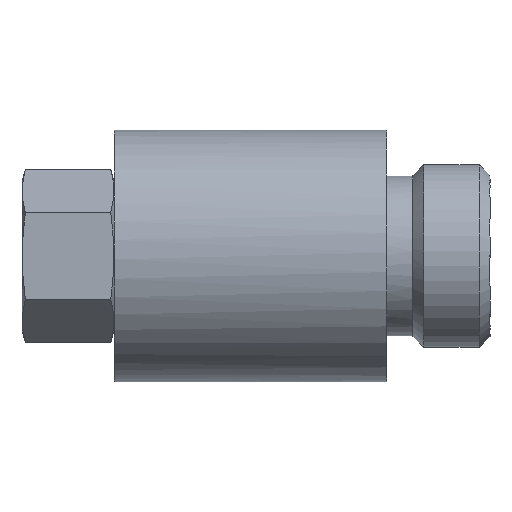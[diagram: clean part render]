
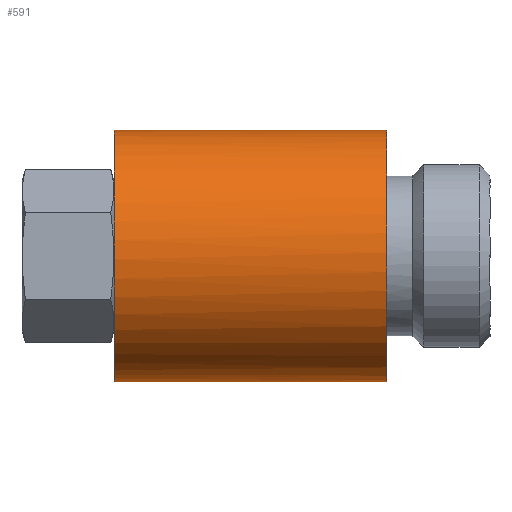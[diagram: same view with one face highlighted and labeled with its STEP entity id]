
A CAD part, left-side view. The second image highlights one B-rep face of the part: STEP entity #591.
In plain terms, the highlighted free-form (B-spline) face has degree [1, 3] with [2, 4] control points.
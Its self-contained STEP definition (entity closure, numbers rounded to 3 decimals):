
#88 = CARTESIAN_POINT ( 'NONE',  ( 0., 0., -6.7 ) ) ;
#91 = EDGE_LOOP ( 'NONE', ( #1129, #1223, #141, #905 ) ) ;
#121 = CARTESIAN_POINT ( 'NONE',  ( -13.4, 14.5, 6.7 ) ) ;
#141 = ORIENTED_EDGE ( 'NONE', *, *, #1001, .T. ) ;
#223 = CARTESIAN_POINT ( 'NONE',  ( 0., 14.5, 6.7 ) ) ;
#248 = CARTESIAN_POINT ( 'NONE',  ( 0., 14.5, -6.7 ) ) ;
#275 = CARTESIAN_POINT ( 'NONE',  ( 0., 0., 6.7 ) ) ;
#288 = EDGE_CURVE ( 'NONE', #1617, #1041, #466, .T. ) ;
#326 = VERTEX_POINT ( 'NONE', #975 ) ;
#396 = CARTESIAN_POINT ( 'NONE',  ( -13.4, 0., -6.7 ) ) ;
#458 = EDGE_CURVE ( 'NONE', #326, #691, #477, .T. ) ;
#466 = B_SPLINE_CURVE_WITH_KNOTS ( 'NONE', 1,
 ( #704, #223 ),
 .UNSPECIFIED., .F., .F.,
 ( 2, 2 ),
 ( 0., 1. ),
 .UNSPECIFIED. ) ;
#477 = B_SPLINE_CURVE_WITH_KNOTS ( 'NONE', 1,
 ( #88, #1459 ),
 .UNSPECIFIED., .F., .F.,
 ( 2, 2 ),
 ( 0., 1. ),
 .UNSPECIFIED. ) ;
#591 = ADVANCED_FACE ( 'NONE', ( #1498 ), #627, .T. ) ;
#627 =( BOUNDED_SURFACE ( )  B_SPLINE_SURFACE ( 1, 3, ( 
 ( #1268, #759, #1123, #1647 ),
 ( #1638, #121, #1285, #979 ) ),
 .UNSPECIFIED., .F., .F., .F. ) 
 B_SPLINE_SURFACE_WITH_KNOTS ( ( 2, 2 ),
 ( 4, 4 ),
 ( 0., 1. ),
 ( 0., 1. ),
 .UNSPECIFIED. ) 
 GEOMETRIC_REPRESENTATION_ITEM ( )  RATIONAL_B_SPLINE_SURFACE ( (
 ( 1., 0.333, 0.333, 1.),
 ( 1., 0.333, 0.333, 1.) ) ) 
 REPRESENTATION_ITEM ( '' )  SURFACE ( )  );
#691 = VERTEX_POINT ( 'NONE', #1010 ) ;
#704 = CARTESIAN_POINT ( 'NONE',  ( 0., 0., 6.7 ) ) ;
#759 = CARTESIAN_POINT ( 'NONE',  ( -13.4, 0., 6.7 ) ) ;
#874 = CARTESIAN_POINT ( 'NONE',  ( 0., 14.5, 6.7 ) ) ;
#905 = ORIENTED_EDGE ( 'NONE', *, *, #458, .F. ) ;
#912 = CARTESIAN_POINT ( 'NONE',  ( -13.4, 0., 6.7 ) ) ;
#975 = CARTESIAN_POINT ( 'NONE',  ( 0., 0., -6.7 ) ) ;
#979 = CARTESIAN_POINT ( 'NONE',  ( 0., 14.5, -6.7 ) ) ;
#1001 = EDGE_CURVE ( 'NONE', #1041, #691, #1601, .T. ) ;
#1010 = CARTESIAN_POINT ( 'NONE',  ( 0., 14.5, -6.7 ) ) ;
#1016 = CARTESIAN_POINT ( 'NONE',  ( -13.4, 14.5, -6.7 ) ) ;
#1041 = VERTEX_POINT ( 'NONE', #1264 ) ;
#1118 = CARTESIAN_POINT ( 'NONE',  ( -13.4, 14.5, 6.7 ) ) ;
#1123 = CARTESIAN_POINT ( 'NONE',  ( -13.4, 0., -6.7 ) ) ;
#1129 = ORIENTED_EDGE ( 'NONE', *, *, #1630, .T. ) ;
#1149 =( BOUNDED_CURVE ( )  B_SPLINE_CURVE ( 3, ( #1425, #396, #912, #275 ),
 .UNSPECIFIED., .F., .T. ) 
 B_SPLINE_CURVE_WITH_KNOTS ( ( 4, 4 ),
 ( 0., 0.5 ),
 .UNSPECIFIED. ) 
 CURVE ( )  GEOMETRIC_REPRESENTATION_ITEM ( )  RATIONAL_B_SPLINE_CURVE ( ( 1., 0.333, 0.333, 1. ) ) 
 REPRESENTATION_ITEM ( '' )  );
#1223 = ORIENTED_EDGE ( 'NONE', *, *, #288, .T. ) ;
#1264 = CARTESIAN_POINT ( 'NONE',  ( 0., 14.5, 6.7 ) ) ;
#1268 = CARTESIAN_POINT ( 'NONE',  ( 0., 0., 6.7 ) ) ;
#1285 = CARTESIAN_POINT ( 'NONE',  ( -13.4, 14.5, -6.7 ) ) ;
#1425 = CARTESIAN_POINT ( 'NONE',  ( 0., 0., -6.7 ) ) ;
#1459 = CARTESIAN_POINT ( 'NONE',  ( 0., 14.5, -6.7 ) ) ;
#1498 = FACE_OUTER_BOUND ( 'NONE', #91, .T. ) ;
#1532 = CARTESIAN_POINT ( 'NONE',  ( 0., 0., 6.7 ) ) ;
#1601 =( BOUNDED_CURVE ( )  B_SPLINE_CURVE ( 3, ( #874, #1118, #1016, #248 ),
 .UNSPECIFIED., .F., .T. ) 
 B_SPLINE_CURVE_WITH_KNOTS ( ( 4, 4 ),
 ( 0.5, 1. ),
 .UNSPECIFIED. ) 
 CURVE ( )  GEOMETRIC_REPRESENTATION_ITEM ( )  RATIONAL_B_SPLINE_CURVE ( ( 1., 0.333, 0.333, 1. ) ) 
 REPRESENTATION_ITEM ( '' )  );
#1617 = VERTEX_POINT ( 'NONE', #1532 ) ;
#1630 = EDGE_CURVE ( 'NONE', #326, #1617, #1149, .T. ) ;
#1638 = CARTESIAN_POINT ( 'NONE',  ( 0., 14.5, 6.7 ) ) ;
#1647 = CARTESIAN_POINT ( 'NONE',  ( 0., 0., -6.7 ) ) ;
